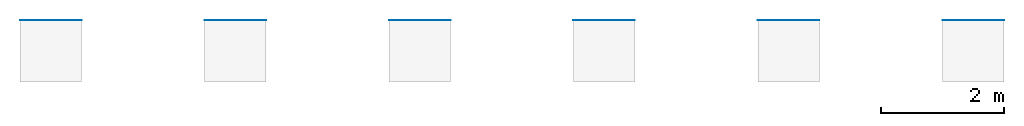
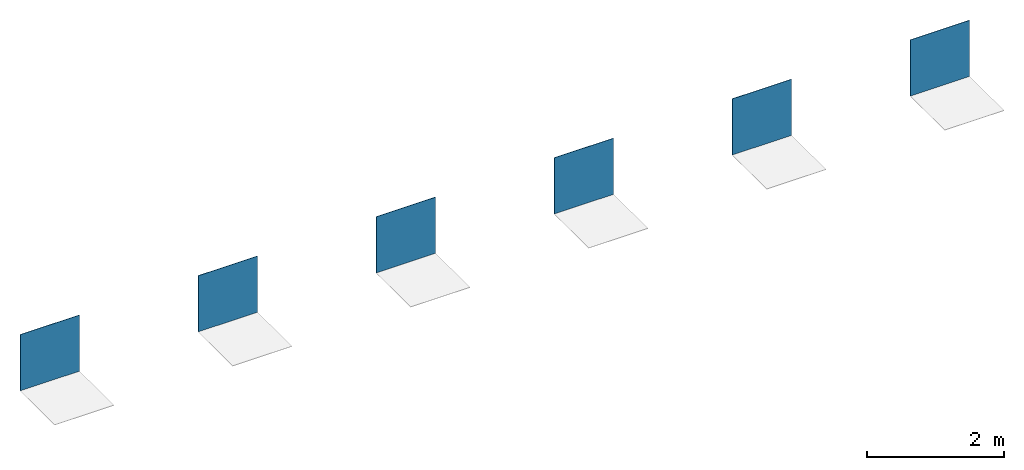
# One storey, part 1 of 2: 6 walls.
"""IFC2X3 building model written with IfcOpenShell, lengths in millimetres."""

from ifc_helpers import new_model, entity, si_unit, converted_unit, derived_unit, direction, frame, frame_2d, origin, place, context, subcontext, project, spatial, rectangle, extrude, material, layer, layer_set, layer_usage, type_object, element, save


model = new_model("IFC2X3")

# Units and contexts
model_context = context("Model", 3, precision=0.01, world=origin(), true_north=direction((6.12303176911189e-17, 1.0)))
body_context = subcontext(model_context, "Body", "Model", "MODEL_VIEW")
ifc_project = project(units=[si_unit("LENGTHUNIT", "METRE", prefix="MILLI"), si_unit("AREAUNIT", "SQUARE_METRE"), si_unit("VOLUMEUNIT", "CUBIC_METRE"), converted_unit("PLANEANGLEUNIT", "DEGREE", entity("IfcRatioMeasure", 0.0174532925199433), si_unit("PLANEANGLEUNIT", "RADIAN"), dimensions=[0, 0, 0, 0, 0, 0, 0]), si_unit("MASSUNIT", "GRAM", prefix="KILO"), derived_unit("MASSDENSITYUNIT", [(si_unit("MASSUNIT", "GRAM", prefix="KILO"), 1), (si_unit("LENGTHUNIT", "METRE"), -3)]), derived_unit("MOMENTOFINERTIAUNIT", [(si_unit("LENGTHUNIT", "METRE"), 4)]), si_unit("TIMEUNIT", "SECOND"), si_unit("FREQUENCYUNIT", "HERTZ"), si_unit("THERMODYNAMICTEMPERATUREUNIT", "DEGREE_CELSIUS"), derived_unit("THERMALTRANSMITTANCEUNIT", [(si_unit("MASSUNIT", "GRAM", prefix="KILO"), 1), (si_unit("THERMODYNAMICTEMPERATUREUNIT", "KELVIN"), -1), (si_unit("TIMEUNIT", "SECOND"), -3)]), derived_unit("VOLUMETRICFLOWRATEUNIT", [(si_unit("LENGTHUNIT", "METRE"), 3), (si_unit("TIMEUNIT", "SECOND"), -1)]), si_unit("ELECTRICCURRENTUNIT", "AMPERE"), si_unit("ELECTRICVOLTAGEUNIT", "VOLT"), si_unit("POWERUNIT", "WATT"), si_unit("FORCEUNIT", "NEWTON", prefix="KILO"), si_unit("ILLUMINANCEUNIT", "LUX"), si_unit("LUMINOUSFLUXUNIT", "LUMEN"), si_unit("LUMINOUSINTENSITYUNIT", "CANDELA"), derived_unit("USERDEFINED", [(si_unit("MASSUNIT", "GRAM", prefix="KILO"), -1), (si_unit("LENGTHUNIT", "METRE"), -2), (si_unit("TIMEUNIT", "SECOND"), 3), (si_unit("LUMINOUSFLUXUNIT", "LUMEN"), 1)]), derived_unit("LINEARVELOCITYUNIT", [(si_unit("LENGTHUNIT", "METRE"), 1), (si_unit("TIMEUNIT", "SECOND"), -1)]), si_unit("PRESSUREUNIT", "PASCAL"), derived_unit("USERDEFINED", [(si_unit("LENGTHUNIT", "METRE"), -2), (si_unit("MASSUNIT", "GRAM", prefix="KILO"), 1), (si_unit("TIMEUNIT", "SECOND"), -2)]), derived_unit("LINEARFORCEUNIT", [(si_unit("MASSUNIT", "GRAM", prefix="KILO"), 1), (si_unit("LENGTHUNIT", "METRE"), 1), (si_unit("TIMEUNIT", "SECOND"), -2), (si_unit("LENGTHUNIT", "METRE"), -1)]), derived_unit("PLANARFORCEUNIT", [(si_unit("MASSUNIT", "GRAM", prefix="KILO"), 1), (si_unit("LENGTHUNIT", "METRE"), 1), (si_unit("TIMEUNIT", "SECOND"), -2), (si_unit("LENGTHUNIT", "METRE"), -2)])], contexts=[model_context])

# Site, building, storey
site_placement = place(None, origin())
site = spatial("IfcSite", under=ifc_project, at=site_placement, Name="Default", CompositionType="ELEMENT")
building_placement = place(site_placement, origin())
building = spatial("IfcBuilding", under=site, at=building_placement, CompositionType="ELEMENT")
storey_placement = place(building_placement, origin())
storey = spatial("IfcBuildingStorey", under=building, at=storey_placement, Name="Level 1", CompositionType="ELEMENT", Elevation=0.0)

# Walls
ifc_material_1 = material(Name="REVIGRÉS-URBAN-DECOR-30X30-RECT-STRATUS 36 -ANTRACITE")
ifc_layer_1 = layer(ifc_material_1, 7.7)
ifc_layer_set_1 = layer_set([ifc_layer_1], Name="Basic Wall:REVIGRÉS-URBAN-DECOR-29.5X29.5-RECT-STRATUS 36-ANTRACITE")
ifc_layer_usage_1 = layer_usage(ifc_layer_set_1, "AXIS2", "POSITIVE", -3.85)
wall_type_1 = type_object("IfcWallType", Name="Basic Wall:REVIGRÉS-URBAN-DECOR-29.5X29.5-RECT-STRATUS 36-ANTRACITE", PredefinedType="STANDARD", material=ifc_layer_set_1)
wall_1_placement = place(storey_placement, frame((2778.64271399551, -1188.07420263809, 0.0)))
element("IfcWallStandardCase", 1, at=wall_1_placement, inside=storey, type_object=wall_type_1, material=ifc_layer_usage_1, Name="Basic Wall:REVIGRÉS-URBAN-DECOR-29.5X29.5-RECT-STRATUS 36-ANTRACITE", ObjectType="Basic Wall:REVIGRÉS-URBAN-DECOR-29.5X29.5-RECT-STRATUS 36-ANTRACITE", context=body_context, shape_type="SweptSolid", body=[
    extrude(rectangle(XDim=1000.0, YDim=7.69999999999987, at=frame_2d((500.0, 0.0), x_axis=(-1.0, 0.0))), origin(), (0.0, 0.0, 1.0), 1000.0),
])
ifc_material_2 = material(Name="REVIGRÉS-URBAN-DECOR-30X30-RECT-STRATUS 36-BONE")
ifc_layer_2 = layer(ifc_material_2, 7.7)
ifc_layer_set_2 = layer_set([ifc_layer_2], Name="Basic Wall:REVIGRÉS-URBAN-DECOR-29.5X29.5-RECT-STRATUS 36-BONE")
ifc_layer_usage_2 = layer_usage(ifc_layer_set_2, "AXIS2", "POSITIVE", -3.85)
wall_type_2 = type_object("IfcWallType", Name="Basic Wall:REVIGRÉS-URBAN-DECOR-29.5X29.5-RECT-STRATUS 36-BONE", PredefinedType="STANDARD", material=ifc_layer_set_2)
wall_2_placement = place(storey_placement, frame((5778.64271399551, -1188.07420263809, 0.0)))
element("IfcWallStandardCase", 2, at=wall_2_placement, inside=storey, type_object=wall_type_2, material=ifc_layer_usage_2, Name="Basic Wall:REVIGRÉS-URBAN-DECOR-29.5X29.5-RECT-STRATUS 36-BONE", ObjectType="Basic Wall:REVIGRÉS-URBAN-DECOR-29.5X29.5-RECT-STRATUS 36-BONE", context=body_context, shape_type="SweptSolid", body=[
    extrude(rectangle(XDim=1000.0, YDim=7.69999999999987, at=frame_2d((500.0, 0.0), x_axis=(-1.0, 0.0))), origin(), (0.0, 0.0, 1.0), 1000.0),
])
ifc_material_3 = material(Name="REVIGRÉS-URBAN-DECOR-30X30-RECT-STRATUS 36-CRAFT")
ifc_layer_3 = layer(ifc_material_3, 7.7)
ifc_layer_set_3 = layer_set([ifc_layer_3], Name="Basic Wall:REVIGRÉS-URBAN-DECOR-29.5X29.5-RECT-STRATUS 36-CRAFT")
ifc_layer_usage_3 = layer_usage(ifc_layer_set_3, "AXIS2", "POSITIVE", -3.85)
wall_type_3 = type_object("IfcWallType", Name="Basic Wall:REVIGRÉS-URBAN-DECOR-29.5X29.5-RECT-STRATUS 36-CRAFT", PredefinedType="STANDARD", material=ifc_layer_set_3)
wall_3_placement = place(storey_placement, frame((8778.64271399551, -1188.07420263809, 0.0)))
element("IfcWallStandardCase", 3, at=wall_3_placement, inside=storey, type_object=wall_type_3, material=ifc_layer_usage_3, Name="Basic Wall:REVIGRÉS-URBAN-DECOR-29.5X29.5-RECT-STRATUS 36-CRAFT", ObjectType="Basic Wall:REVIGRÉS-URBAN-DECOR-29.5X29.5-RECT-STRATUS 36-CRAFT", context=body_context, shape_type="SweptSolid", body=[
    extrude(rectangle(XDim=1000.0, YDim=7.69999999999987, at=frame_2d((500.0, 0.0), x_axis=(-1.0, 0.0))), origin(), (0.0, 0.0, 1.0), 1000.0),
])
ifc_material_4 = material(Name="REVIGRÉS-URBAN-DECOR-30X30-RECT-STRATUS 36-FOG")
ifc_layer_4 = layer(ifc_material_4, 7.7)
ifc_layer_set_4 = layer_set([ifc_layer_4], Name="Basic Wall:REVIGRÉS-URBAN-DECOR-29.5X29.5-RECT-STRATUS 36-FOG")
ifc_layer_usage_4 = layer_usage(ifc_layer_set_4, "AXIS2", "POSITIVE", -3.85)
wall_type_4 = type_object("IfcWallType", Name="Basic Wall:REVIGRÉS-URBAN-DECOR-29.5X29.5-RECT-STRATUS 36-FOG", PredefinedType="STANDARD", material=ifc_layer_set_4)
wall_4_placement = place(storey_placement, frame((11778.6427139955, -1188.07420263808, 0.0)))
element("IfcWallStandardCase", 4, at=wall_4_placement, inside=storey, type_object=wall_type_4, material=ifc_layer_usage_4, Name="Basic Wall:REVIGRÉS-URBAN-DECOR-29.5X29.5-RECT-STRATUS 36-FOG", ObjectType="Basic Wall:REVIGRÉS-URBAN-DECOR-29.5X29.5-RECT-STRATUS 36-FOG", context=body_context, shape_type="SweptSolid", body=[
    extrude(rectangle(XDim=1000.0, YDim=7.69999999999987, at=frame_2d((500.0, 0.0), x_axis=(-1.0, 0.0))), origin(), (0.0, 0.0, 1.0), 1000.0),
])
ifc_material_5 = material(Name="REVIGRÉS-URBAN-DECOR-30X30-RECT-STRATUS 36-GRIS")
ifc_layer_5 = layer(ifc_material_5, 7.7)
ifc_layer_set_5 = layer_set([ifc_layer_5], Name="Basic Wall:REVIGRÉS-URBAN-DECOR-29.5X29.5-RECT-STRATUS 36-GRIS")
ifc_layer_usage_5 = layer_usage(ifc_layer_set_5, "AXIS2", "POSITIVE", -3.85)
wall_type_5 = type_object("IfcWallType", Name="Basic Wall:REVIGRÉS-URBAN-DECOR-29.5X29.5-RECT-STRATUS 36-GRIS", PredefinedType="STANDARD", material=ifc_layer_set_5)
wall_5_placement = place(storey_placement, frame((14778.6427139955, -1188.07420263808, 0.0)))
element("IfcWallStandardCase", 5, at=wall_5_placement, inside=storey, type_object=wall_type_5, material=ifc_layer_usage_5, Name="Basic Wall:REVIGRÉS-URBAN-DECOR-29.5X29.5-RECT-STRATUS 36-GRIS", ObjectType="Basic Wall:REVIGRÉS-URBAN-DECOR-29.5X29.5-RECT-STRATUS 36-GRIS", context=body_context, shape_type="SweptSolid", body=[
    extrude(rectangle(XDim=1000.0, YDim=7.69999999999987, at=frame_2d((500.0, 0.0), x_axis=(-1.0, 0.0))), origin(), (0.0, 0.0, 1.0), 1000.0),
])
ifc_material_6 = material(Name="REVIGRÉS-URBAN-DECOR-30X30-RECT-STRATUS 36-OFFWHITE")
ifc_layer_6 = layer(ifc_material_6, 7.7)
ifc_layer_set_6 = layer_set([ifc_layer_6], Name="Basic Wall:REVIGRÉS-URBAN-DECOR-29.5X29.5-RECT-STRATUS 36-OFFWHITE")
ifc_layer_usage_6 = layer_usage(ifc_layer_set_6, "AXIS2", "POSITIVE", -3.85)
wall_type_6 = type_object("IfcWallType", Name="Basic Wall:REVIGRÉS-URBAN-DECOR-29.5X29.5-RECT-STRATUS 36-OFFWHITE", PredefinedType="STANDARD", material=ifc_layer_set_6)
wall_6_placement = place(storey_placement, frame((17778.6427139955, -1188.07420263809, 0.0)))
element("IfcWallStandardCase", 6, at=wall_6_placement, inside=storey, type_object=wall_type_6, material=ifc_layer_usage_6, Name="Basic Wall:REVIGRÉS-URBAN-DECOR-29.5X29.5-RECT-STRATUS 36-OFFWHITE", ObjectType="Basic Wall:REVIGRÉS-URBAN-DECOR-29.5X29.5-RECT-STRATUS 36-OFFWHITE", context=body_context, shape_type="SweptSolid", body=[
    extrude(rectangle(XDim=1000.0, YDim=7.69999999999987, at=frame_2d((500.000000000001, 0.0), x_axis=(-1.0, 0.0))), origin(), (0.0, 0.0, 1.0), 1000.0),
])

save(model, "model.ifc")
